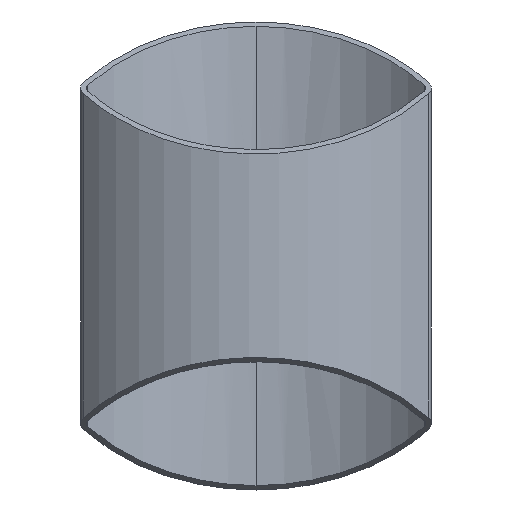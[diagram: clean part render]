
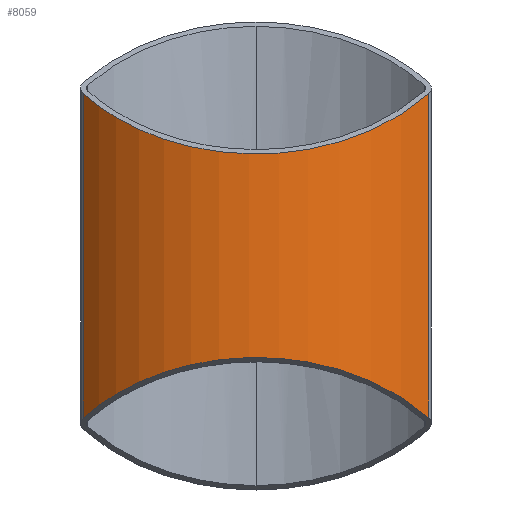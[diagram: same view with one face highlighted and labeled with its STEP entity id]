
A CAD part, top view. The second image highlights one B-rep face of the part: STEP entity #8059.
In plain terms, the highlighted cylindrical face has radius 77.308 mm (diameter 154.615 mm), a partial arc.
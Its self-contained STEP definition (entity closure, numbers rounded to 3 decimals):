
#671 = CARTESIAN_POINT ( 'NONE',  ( 59.056, -55.448, 2.581 ) ) ;
#1525 = ORIENTED_EDGE ( 'NONE', *, *, #7436, .F. ) ;
#1768 = VERTEX_POINT ( 'NONE', #14298 ) ;
#1968 = CARTESIAN_POINT ( 'NONE',  ( -25.781, 25.767, 41.97 ) ) ;
#2228 = DIRECTION ( 'NONE',  ( 0., 0., -1. ) ) ;
#2510 = DIRECTION ( 'NONE',  ( 0., -1., 0. ) ) ;
#2899 = ORIENTED_EDGE ( 'NONE', *, *, #11710, .T. ) ;
#3359 = FACE_OUTER_BOUND ( 'NONE', #8073, .T. ) ;
#4180 = LINE ( 'NONE', #6567, #15805 ) ;
#5054 = CARTESIAN_POINT ( 'NONE',  ( -25.781, -25.767, 41.97 ) ) ;
#5214 = AXIS2_PLACEMENT_3D ( 'NONE', #13690, #13631, #2228 ) ;
#5840 = CARTESIAN_POINT ( 'NONE',  ( 59.056, 55.448, 2.581 ) ) ;
#6142 = CARTESIAN_POINT ( 'NONE',  ( -59.056, 55.448, 2.581 ) ) ;
#6567 = CARTESIAN_POINT ( 'NONE',  ( 59.056, 80., 2.581 ) ) ;
#7126 = CYLINDRICAL_SURFACE ( 'NONE', #5214, 77.308 ) ;
#7251 = EDGE_CURVE ( 'NONE', #14574, #15771, #17235, .T. ) ;
#7425 = CARTESIAN_POINT ( 'NONE',  ( -59.056, -55.448, 2.581 ) ) ;
#7436 = EDGE_CURVE ( 'NONE', #1768, #8379, #7490, .T. ) ;
#7490 =( BOUNDED_CURVE ( )  B_SPLINE_CURVE ( 3, ( #671, #16365, #5054, #10703 ),
 .UNSPECIFIED., .F., .F. ) 
 B_SPLINE_CURVE_WITH_KNOTS ( ( 4, 4 ),
 ( 2.272, 4.011 ),
 .UNSPECIFIED. ) 
 CURVE ( )  GEOMETRIC_REPRESENTATION_ITEM ( )  RATIONAL_B_SPLINE_CURVE ( ( 1., 0.764, 0.764, 1. ) ) 
 REPRESENTATION_ITEM ( '' )  );
#8059 = ADVANCED_FACE ( 'NONE', ( #3359 ), #7126, .T. ) ;
#8073 = EDGE_LOOP ( 'NONE', ( #1525, #15526, #17455, #2899 ) ) ;
#8379 = VERTEX_POINT ( 'NONE', #7425 ) ;
#10480 = CARTESIAN_POINT ( 'NONE',  ( 25.781, 25.767, 41.97 ) ) ;
#10703 = CARTESIAN_POINT ( 'NONE',  ( -59.056, -55.448, 2.581 ) ) ;
#10853 = CARTESIAN_POINT ( 'NONE',  ( -59.056, 80., 2.581 ) ) ;
#11112 = VECTOR ( 'NONE', #16708, 1000. ) ;
#11710 = EDGE_CURVE ( 'NONE', #15771, #8379, #14927, .T. ) ;
#12407 = EDGE_CURVE ( 'NONE', #14574, #1768, #4180, .T. ) ;
#13631 = DIRECTION ( 'NONE',  ( 0., -1., 0. ) ) ;
#13690 = CARTESIAN_POINT ( 'NONE',  ( 0., 80., -47.308 ) ) ;
#14298 = CARTESIAN_POINT ( 'NONE',  ( 59.056, -55.448, 2.581 ) ) ;
#14574 = VERTEX_POINT ( 'NONE', #5840 ) ;
#14867 = CARTESIAN_POINT ( 'NONE',  ( 59.056, 55.448, 2.581 ) ) ;
#14927 = LINE ( 'NONE', #10853, #11112 ) ;
#15526 = ORIENTED_EDGE ( 'NONE', *, *, #12407, .F. ) ;
#15771 = VERTEX_POINT ( 'NONE', #17368 ) ;
#15805 = VECTOR ( 'NONE', #2510, 1000. ) ;
#16365 = CARTESIAN_POINT ( 'NONE',  ( 25.781, -25.767, 41.97 ) ) ;
#16708 = DIRECTION ( 'NONE',  ( 0., -1., 0. ) ) ;
#17235 =( BOUNDED_CURVE ( )  B_SPLINE_CURVE ( 3, ( #14867, #10480, #1968, #6142 ),
 .UNSPECIFIED., .F., .F. ) 
 B_SPLINE_CURVE_WITH_KNOTS ( ( 4, 4 ),
 ( 5.414, 7.153 ),
 .UNSPECIFIED. ) 
 CURVE ( )  GEOMETRIC_REPRESENTATION_ITEM ( )  RATIONAL_B_SPLINE_CURVE ( ( 1., 0.764, 0.764, 1. ) ) 
 REPRESENTATION_ITEM ( '' )  );
#17368 = CARTESIAN_POINT ( 'NONE',  ( -59.056, 55.448, 2.581 ) ) ;
#17455 = ORIENTED_EDGE ( 'NONE', *, *, #7251, .T. ) ;
